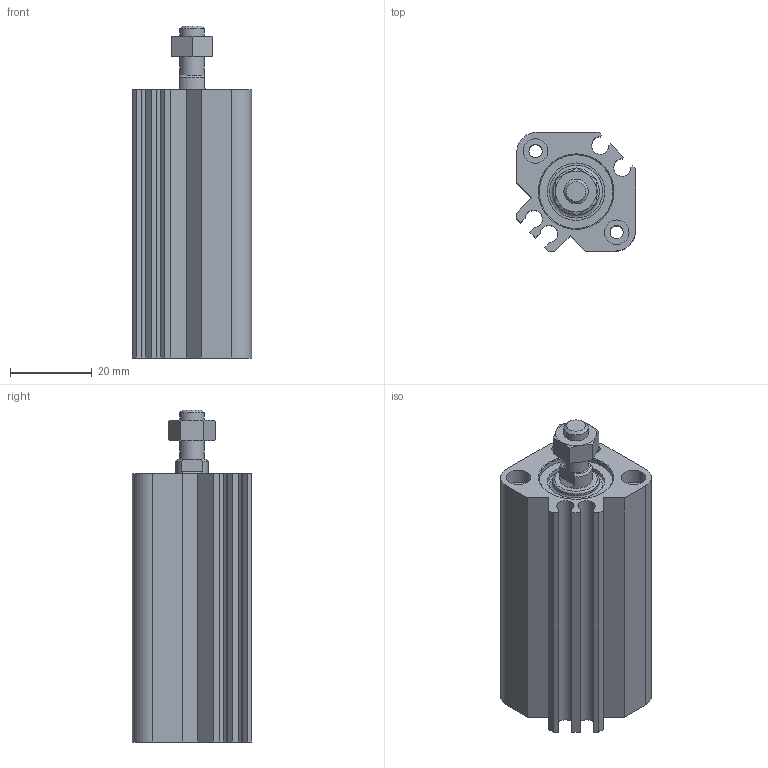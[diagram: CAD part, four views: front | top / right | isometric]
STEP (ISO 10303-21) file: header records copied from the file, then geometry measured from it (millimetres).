
FILE_DESCRIPTION( ( 'STEP AP214' ), '1' );
FILE_NAME( 'C:/Users/emc02044/Desktop/SQN SQN big size/SQN16X35-S-M.stp', '2026-07-28T12:30:54', ( 'License CC BY-ND 4.0' ), ( 'CADENAS' ), ' ', 'PARTsolutions', ' ' );
FILE_SCHEMA( ( 'AUTOMOTIVE_DESIGN { 1 0 10303 214 1 1 1 1 }' ) );
Length unit declared in the file: millimetre
Products named in the file (3): SQN16X35-S-M; _SQ16X35-S(0) ()_body; _SQ16X35-S-M(rod-0)
Assembly tree (2 placements, depth 2):
  SQN16X35-S-M
    _SQ16X35-S(0) ()_body
    _SQ16X35-S-M(rod-0)
Bounding box: 29.07 x 29.07 x 81 mm (x, y, z)
Volume: 37459.2 mm3; surface area: 18477.4 mm2
Topology: 2 solids, 2 shells, 107 faces, 234 edges, 149 vertices
Faces by surface type: plane 58, cylinder 27, cone 20, torus 2
Full cylindrical faces by diameter (mm): 3.242 x4, 3.4 x2, 4.134 x2, 6 x6, 8 x2, 11.3 x1, 14 x1, 16 x2, 18 x1
Entity records: 3702 total; most frequent: CARTESIAN_POINT 550, DIRECTION 474, ORIENTED_EDGE 404, EDGE_CURVE 202, AXIS2_PLACEMENT_3D 190, EDGE_LOOP 158, VERTEX_POINT 146, FACE_OUTER_BOUND 130
